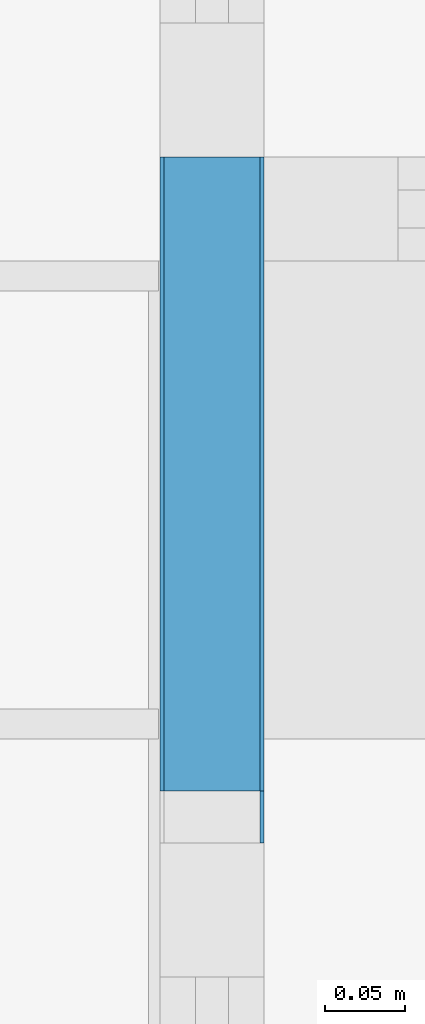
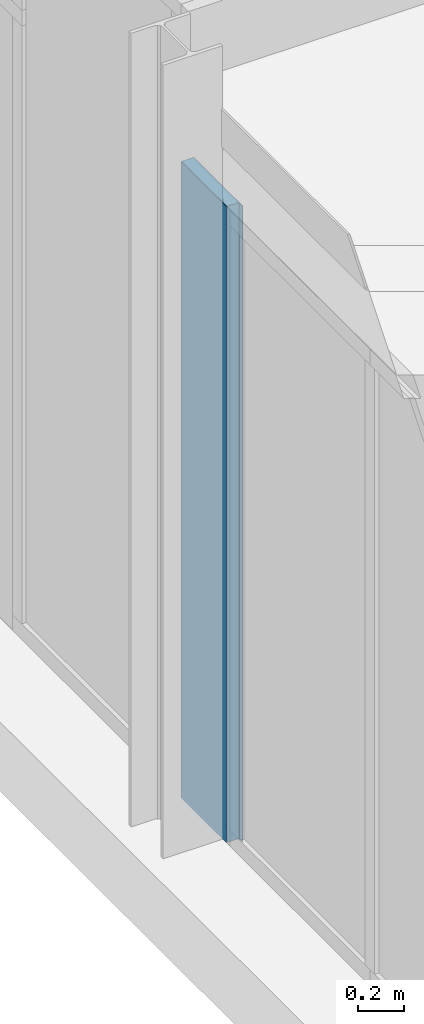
# One storey, part 63 of 99: 4 building element parts, 1 opening, 2 elements without a shape of their own.
"""IFC2X3 building model written with IfcOpenShell, lengths in millimetres."""

import ifcopenshell
import ifcopenshell.guid

model = None  # the IFC model being written
_history = None  # IfcOwnerHistory: only IFC2X3 demands one
_inside = {}  # id of a spatial element -> (the spatial element, [elements in it])
_under = {}  # id of a project, library or spatial element -> (it, [spatial elements below it])
_declared = {}  # id of a project -> (the project, [libraries it declares])
_typed = {}  # id of a type object -> (the type object, [elements of that type])
_made_of = {}  # id of a material, layer set ... -> (it, [elements and type objects made of it])


def new_model(schema):
    """Start an empty IFC model of exactly this schema.

    Asked for "IFC4X3", IfcOpenShell would pick the latest addendum, in which some entities
    have other attributes; the version numbers below select the first issue.
    IFC2X3 requires an IfcOwnerHistory on every rooted entity: one is made here for all.
    """
    global model, _history
    if schema == "IFC4X3":
        model = ifcopenshell.file(schema_version=(4, 3, 0, 0))
    else:
        model = ifcopenshell.file(schema=schema)
    _inside.clear()
    _under.clear()
    _declared.clear()
    _typed.clear()
    _made_of.clear()
    _history = None
    if model.schema == "IFC2X3":
        org = make("IfcOrganization", Name="unknown")
        user = make(
            "IfcPersonAndOrganization",
            ThePerson=make("IfcPerson", FamilyName="unknown"),
            TheOrganization=org,
        )
        app = make(
            "IfcApplication",
            ApplicationDeveloper=org,
            Version="unknown",
            ApplicationFullName="unknown",
            ApplicationIdentifier="unknown",
        )
        _history = make(
            "IfcOwnerHistory",
            OwningUser=user,
            OwningApplication=app,
            ChangeAction="ADDED",
            CreationDate=0,
        )
    return model


def make(cls, **values):
    """One entity of the class cls with the attributes given. An attribute that is None is left unset."""
    return model.create_entity(
        cls, **{name: value for name, value in values.items() if value is not None}
    )


def entity(cls, *values):
    """Any entity or typed value of the class cls, its attributes in the order of the schema. None: left unset."""
    e = model.create_entity(cls)
    for i, value in enumerate(values):
        if value is not None:
            e[i] = value
    return e


def rooted(cls, **values):
    """An entity with a GlobalId (a new one), such as an element, a storey or a relation."""
    return make(cls, GlobalId=ifcopenshell.guid.new(), OwnerHistory=_history, **values)


def si_unit(unit_type, name, prefix=None):
    """IfcSIUnit, for example si_unit("LENGTHUNIT", "METRE", prefix="MILLI")."""
    return make("IfcSIUnit", UnitType=unit_type, Prefix=prefix, Name=name)


def converted_unit(unit_type, name, factor, base, dimensions=None, offset=None):
    """IfcConversionBasedUnit, such as the inch: factor (a typed value) times the base unit."""
    return make(
        "IfcConversionBasedUnit"
        if offset is None
        else "IfcConversionBasedUnitWithOffset",
        ConversionOffset=offset,
        Dimensions=None
        if dimensions is None
        else entity("IfcDimensionalExponents", *dimensions),
        UnitType=unit_type,
        Name=name,
        ConversionFactor=make(
            "IfcMeasureWithUnit", ValueComponent=factor, UnitComponent=base
        ),
    )


def derived_unit(unit_type, elements):
    """IfcDerivedUnit: a product of units, each with its exponent."""
    return make(
        "IfcDerivedUnit",
        Elements=[
            make("IfcDerivedUnitElement", Unit=unit, Exponent=power)
            for unit, power in elements
        ],
        UnitType=unit_type,
    )


def money_unit(currency):
    """IfcMonetaryUnit."""
    return make("IfcMonetaryUnit", Currency=currency)


def assignment(units):
    """IfcUnitAssignment: the units of a project."""
    return None if units is None else make("IfcUnitAssignment", Units=units)


def point(xyz):
    """IfcCartesianPoint."""
    return None if xyz is None else make("IfcCartesianPoint", Coordinates=xyz)


def direction(xyz):
    """IfcDirection."""
    return None if xyz is None else make("IfcDirection", DirectionRatios=xyz)


def frame(location, z_axis=None, x_axis=None):
    """IfcAxis2Placement3D, a coordinate frame: its origin and axes. An axis left out is left unset."""
    return make(
        "IfcAxis2Placement3D",
        Location=point(location),
        Axis=direction(z_axis),
        RefDirection=direction(x_axis),
    )


def origin_with_axes():
    """The frame at (0, 0, 0) with the z axis (0, 0, 1) and the x axis (1, 0, 0) written out."""
    return frame((0.0, 0.0, 0.0), z_axis=(0.0, 0.0, 1.0), x_axis=(1.0, 0.0, 0.0))


def place(relative_to, where):
    """IfcLocalPlacement: puts the frame where relative to a parent placement (None: the world)."""
    return make(
        "IfcLocalPlacement", PlacementRelTo=relative_to, RelativePlacement=where
    )


def context(
    kind, dimensions, precision=None, world=None, true_north=None, identifier=None
):
    """IfcGeometricRepresentationContext, for example the 3D "Model" context."""
    return make(
        "IfcGeometricRepresentationContext",
        ContextIdentifier=identifier,
        ContextType=kind,
        CoordinateSpaceDimension=dimensions,
        Precision=precision,
        WorldCoordinateSystem=world,
        TrueNorth=true_north,
    )


def subcontext(parent, identifier, kind, view, scale=None):
    """IfcGeometricRepresentationSubContext, for example "Body" below "Model"."""
    return make(
        "IfcGeometricRepresentationSubContext",
        ContextIdentifier=identifier,
        ContextType=kind,
        ParentContext=parent,
        TargetScale=scale,
        TargetView=view,
    )


def project(units=None, contexts=None):
    """IfcProject with its units and contexts."""
    return rooted(
        "IfcProject",
        Name="project",
        RepresentationContexts=contexts,
        UnitsInContext=assignment(units),
    )


def spatial(cls, under=None, at=None, **own):
    """A site, building, storey or space (cls), placed at a placement, below another one or the project."""
    s = rooted(cls, ObjectPlacement=at, **own)
    if under is not None:
        _under.setdefault(under.id(), (under, []))[1].append(s)
    return s


def faces_of(points, faces, orient=None, outer=None):
    """IfcFace entities. A face is a list of loops; a loop is a list of indices into points, from 0.

    orient and outer hold one flag for each loop. By default every Orientation is true, the
    first loop of a face is its IfcFaceOuterBound and the others are IfcFaceBound.
    """
    made = []
    for i, loops in enumerate(faces):
        bounds = []
        for j, loop in enumerate(loops):
            is_outer = j == 0 if outer is None else outer[i][j]
            bounds.append(
                make(
                    "IfcFaceOuterBound" if is_outer else "IfcFaceBound",
                    Bound=make("IfcPolyLoop", Polygon=[points[k] for k in loop]),
                    Orientation=True if orient is None else orient[i][j],
                )
            )
        made.append(make("IfcFace", Bounds=bounds))
    return made


def faceted_brep(points, faces, orient=None, outer=None, voids=None):
    """IfcFacetedBrep: a solid bounded by flat faces; with voids (closed shells), ...WithVoids."""
    shared = [point(p) for p in points]
    hull = make("IfcClosedShell", CfsFaces=faces_of(shared, faces, orient, outer))
    if voids is None:
        return make("IfcFacetedBrep", Outer=hull)
    return make(
        "IfcFacetedBrepWithVoids",
        Outer=hull,
        Voids=[
            make(cls, CfsFaces=faces_of(shared, fs, o, b)) for cls, fs, o, b in voids
        ],
    )


def shape(context_of_items, identifier, shape_type, items):
    """IfcShapeRepresentation: the items that make up one representation, for example the "Body"."""
    return make(
        "IfcShapeRepresentation",
        ContextOfItems=context_of_items,
        RepresentationIdentifier=identifier,
        RepresentationType=shape_type,
        Items=items,
    )


def material(Name=None, Category=None):
    """IfcMaterial."""
    return make("IfcMaterial", Name=Name, Category=Category)


def made_of(thing, what):
    """Note that an element or type object is made of a material, layer set ...; save() writes the relation."""
    if what is not None:
        _made_of.setdefault(what.id(), (what, []))[1].append(thing)
    return thing


def type_object(cls, material=None, **own):
    """A type object (cls), such as IfcWallType, which elements share."""
    return made_of(rooted(cls, **own), material)


def element(
    cls,
    number,
    at=None,
    inside=None,
    cuts=None,
    type_object=None,
    material=None,
    context=None,
    identifier="Body",
    shape_type=None,
    held_by="IfcProductDefinitionShape",
    body=None,
    shapes=None,
    **own,
):
    """One element of the class cls, such as IfcWall. Its Tag is "e" and its number.

    at: its placement. inside: the storey or other place that contains it. cuts: it is an
    opening in that element (IfcRelVoidsElement). A single representation is given by context,
    identifier, shape_type and body (its items); several are given by shapes. held_by: the class
    of the entity that holds the representations. save() writes the other relations.
    """
    e = rooted(cls, Tag="e%d" % number, ObjectPlacement=at, **own)
    if body is not None:
        shapes = [shape(context, identifier, shape_type, body)]
    if shapes is not None:
        e.Representation = make(held_by, Representations=shapes)
    if inside is not None:
        _inside.setdefault(inside.id(), (inside, []))[1].append(e)
    if cuts is not None:
        rooted(
            "IfcRelVoidsElement", RelatingBuildingElement=cuts, RelatedOpeningElement=e
        )
    if type_object is not None:
        _typed.setdefault(type_object.id(), (type_object, []))[1].append(e)
    return made_of(e, material)


def aggregate(whole, parts):
    """IfcRelAggregates: a whole, such as a stair, and the parts it consists of."""
    return rooted("IfcRelAggregates", RelatingObject=whole, RelatedObjects=parts)


def save(model, path):
    """Write the relations noted so far, then the file.

    IfcRelAggregates (storeys below a building ...), IfcRelContainedInSpatialStructure (elements
    in a storey), IfcRelDefinesByType, IfcRelAssociatesMaterial and IfcRelDeclares: one each for
    every whole, place, type object, material and project.
    """
    for whole, parts in _under.values():
        aggregate(whole, parts)
    for where, things in _inside.values():
        rooted(
            "IfcRelContainedInSpatialStructure",
            RelatedElements=things,
            RelatingStructure=where,
        )
    for kind, things in _typed.values():
        rooted("IfcRelDefinesByType", RelatedObjects=things, RelatingType=kind)
    for what, things in _made_of.values():
        rooted("IfcRelAssociatesMaterial", RelatedObjects=things, RelatingMaterial=what)
    for by, libraries in _declared.values():
        rooted("IfcRelDeclares", RelatingContext=by, RelatedDefinitions=libraries)
    model.write(path)


model = new_model("IFC2X3")

# Units and contexts
model_context = context("Model", 3, precision=0.01, world=origin_with_axes(), true_north=direction((0.0, 1.0)))
body_context = subcontext(model_context, "Body", "Model", "MODEL_VIEW")
ifc_project = project(units=[si_unit("LENGTHUNIT", "METRE", prefix="MILLI"), si_unit("AREAUNIT", "SQUARE_METRE"), si_unit("VOLUMEUNIT", "CUBIC_METRE"), converted_unit("PLANEANGLEUNIT", "DEGREE", entity("IfcPlaneAngleMeasure", 0.0174532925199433), si_unit("PLANEANGLEUNIT", "RADIAN"), dimensions=[0, 0, 0, 0, 0, 0, 0]), money_unit("EUR"), converted_unit("TIMEUNIT", "Year", entity("IfcTimeMeasure", 31557600.0), si_unit("TIMEUNIT", "SECOND"), dimensions=[0, 0, 1, 0, 0, 0, 0]), si_unit("MASSUNIT", "GRAM", prefix="KILO"), si_unit("THERMODYNAMICTEMPERATUREUNIT", "DEGREE_CELSIUS"), si_unit("LUMINOUSINTENSITYUNIT", "LUMEN"), si_unit("ENERGYUNIT", "JOULE", prefix="MEGA"), derived_unit("THERMALCONDUCTANCEUNIT", [(si_unit("POWERUNIT", "WATT"), 1), (si_unit("LENGTHUNIT", "METRE"), -1), (si_unit("THERMODYNAMICTEMPERATUREUNIT", "KELVIN"), -1)]), derived_unit("SPECIFICHEATCAPACITYUNIT", [(si_unit("ENERGYUNIT", "JOULE"), 1), (si_unit("MASSUNIT", "GRAM", prefix="KILO"), -1), (si_unit("THERMODYNAMICTEMPERATUREUNIT", "KELVIN"), -1)]), derived_unit("MASSDENSITYUNIT", [(si_unit("MASSUNIT", "GRAM", prefix="KILO"), 1), (si_unit("VOLUMEUNIT", "CUBIC_METRE"), -1)])], contexts=[model_context])

# Site, building, storey
site_placement = place(None, origin_with_axes())
site = spatial("IfcSite", under=ifc_project, at=site_placement, Name="Site", CompositionType="ELEMENT")
building_placement = place(site_placement, origin_with_axes())
building = spatial("IfcBuilding", under=site, at=building_placement, Name="Naam gebouw", CompositionType="ELEMENT")
storey_placement = place(building_placement, frame((0.0, 0.0, 7650.0), z_axis=(0.0, 0.0, 1.0), x_axis=(1.0, 0.0, 0.0)))
storey = spatial("IfcBuildingStorey", under=building, at=storey_placement, Name="2e verdieping N", CompositionType="ELEMENT", Elevation=7650.0)

# Wall, building element parts
wall_type = type_object("IfcWallType", Name="Basic Wall:31_WA_ALU_PANEEL", PredefinedType="STANDARD")
wall_1_placement = place(storey_placement, frame((14474.50000003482, 28170.91242625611, -3500.0), z_axis=(0.0, 0.0, 1.0), x_axis=(0.0, -1.0, 0.0)))
wall_1 = element("IfcWall", 1, at=wall_1_placement, inside=storey, type_object=wall_type, Name="Basic Wall:31_WA_ALU_PANEEL")
ifc_material_1 = material(Name="Aluminum geanodiseerd RAL 7024")
building_element_part_1_placement = place(wall_1_placement, origin_with_axes())
building_element_part_1 = element("IfcBuildingElementPart", 2, at=building_element_part_1_placement, material=ifc_material_1, Name="Aluminum geanodiseerd RAL 7024", context=body_context, shape_type="Brep", body=[
    faceted_brep([(397.4999999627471, 32.50000002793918, 0.0), (397.4999999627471, 30.00000002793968, 0.0), (0.0, 30.00000002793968, 0.0), (0.0, 32.50000002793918, 0.0), (397.4999999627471, 32.50000002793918, 3399.999999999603), (397.4999999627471, 30.00000002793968, 3399.999999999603), (0.0, 30.00000002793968, 3399.999999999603), (0.0, 32.50000002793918, 3399.999999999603)], [[[0, 1, 2, 3]], [[0, 4, 5, 1]], [[1, 5, 6, 2]], [[3, 2, 6, 7]], [[4, 0, 3, 7]], [[5, 4, 7, 6]]]),
])
ifc_material_2 = material(Name="isolatie_080_1-100")
building_element_part_2_placement = place(wall_1_placement, origin_with_axes())
building_element_part_2 = element("IfcBuildingElementPart", 3, at=building_element_part_2_placement, material=ifc_material_2, Name="isolatie_080_1-100", context=body_context, shape_type="Brep", body=[
    faceted_brep([(397.4999999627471, 30.00000002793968, 0.0), (397.4999999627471, -29.99999997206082, 0.0), (0.0, -29.99999997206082, 0.0), (0.0, 30.00000002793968, 0.0), (397.4999999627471, 30.00000002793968, 3399.999999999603), (397.4999999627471, -29.99999997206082, 3399.999999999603), (0.0, -29.99999997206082, 3399.999999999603), (0.0, 30.00000002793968, 3399.999999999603)], [[[0, 1, 2, 3]], [[0, 4, 5, 1]], [[1, 5, 6, 2]], [[3, 2, 6, 7]], [[4, 0, 3, 7]], [[5, 4, 7, 6]]]),
])
building_element_part_3_placement = place(wall_1_placement, origin_with_axes())
building_element_part_3 = element("IfcBuildingElementPart", 4, at=building_element_part_3_placement, material=ifc_material_1, Name="Aluminum geanodiseerd RAL 7024", context=body_context, shape_type="Brep", body=[
    faceted_brep([(397.4999999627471, -29.99999997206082, 0.0), (397.4999999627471, -32.49999997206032, 0.0), (0.0, -32.49999997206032, 0.0), (0.0, -29.99999997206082, 0.0), (397.4999999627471, -29.99999997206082, 3399.999999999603), (397.4999999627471, -32.49999997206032, 3399.999999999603), (0.0, -32.49999997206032, 3399.999999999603), (0.0, -29.99999997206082, 3399.999999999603)], [[[0, 1, 2, 3]], [[0, 4, 5, 1]], [[1, 5, 6, 2]], [[3, 2, 6, 7]], [[4, 0, 3, 7]], [[5, 4, 7, 6]]]),
])
aggregate(wall_1, [building_element_part_1, building_element_part_2, building_element_part_3])

# Wall, opening, building element part
wall_2_placement = place(storey_placement, frame((14474.50000006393, 22666.41242633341, -3500.0), z_axis=(0.0, 0.0, 1.0), x_axis=(0.0, 1.0, 0.0)))
wall_2 = element("IfcWall", 5, at=wall_2_placement, inside=storey, type_object=wall_type, Name="Basic Wall:31_WA_ALU_PANEEL")
opening_placement = place(wall_2_placement, frame((-22666.41242633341, 14474.50000006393, -4150.0), z_axis=(0.0, 0.0, 1.0), x_axis=(0.0, -1.0, 0.0)))
element("IfcOpeningElement", 6, at=opening_placement, cuts=wall_2, Name="Basic Wall:31_WA_ALU_PANEEL", context=body_context, shape_type="Brep", body=[
    faceted_brep([(14659.40000004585, 22850.91242640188, 4149.999999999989), (14659.40000004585, 22850.91242640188, 7549.999999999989), (14289.60000004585, 22850.91242640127, 7549.999999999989), (14289.60000004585, 22850.91242640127, 4149.999999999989), (14659.40000003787, 27740.91242640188, 4149.999999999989), (14659.40000003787, 27740.91242640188, 7549.999999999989), (14289.60000003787, 27740.91242640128, 7549.999999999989), (14289.60000003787, 27740.91242640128, 4149.999999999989)], [[[0, 1, 2, 3]], [[0, 4, 5, 1]], [[1, 5, 6, 2]], [[3, 2, 6, 7]], [[4, 0, 3, 7]], [[5, 4, 7, 6]]]),
])
building_element_part_4_placement = place(wall_2_placement, origin_with_axes())
building_element_part_4 = element("IfcBuildingElementPart", 7, at=building_element_part_4_placement, material=ifc_material_1, Name="Aluminum geanodiseerd RAL 7024", context=body_context, shape_type="Brep", body=[
    faceted_brep([(5074.500000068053, -30.00000003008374, 3399.999999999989), (5074.500000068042, -32.50000003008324, 3399.999999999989), (5106.999999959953, -32.50000003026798, 3399.999999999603), (5106.999999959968, -30.00000003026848, 3399.999999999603), (5074.500000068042, -32.50000003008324, 0.0), (5074.500000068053, -30.00000003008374, 0.0), (5106.999999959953, -32.50000003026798, 0.0), (5106.999999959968, -30.00000003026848, 0.0)], [[[0, 1, 2, 3]], [[4, 1, 0, 5]], [[1, 4, 6, 2]], [[6, 7, 3, 2]], [[5, 0, 3, 7]], [[4, 5, 7, 6]]]),
])
aggregate(wall_2, [building_element_part_4])

save(model, "model.ifc")
